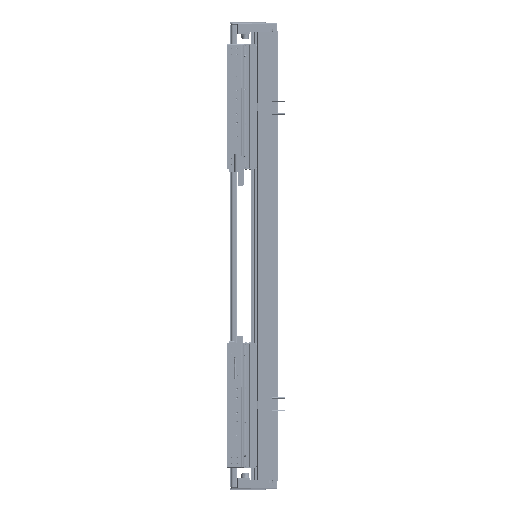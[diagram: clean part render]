
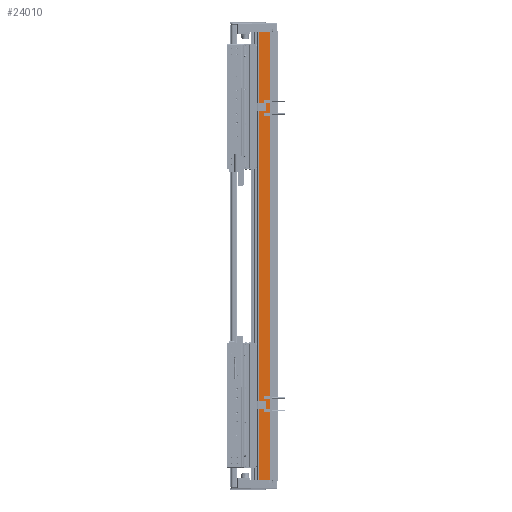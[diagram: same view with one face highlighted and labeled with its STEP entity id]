
A CAD part, left-side view. The second image highlights one B-rep face of the part: STEP entity #24010.
In plain terms, the highlighted planar face has unit normal (-1, 0, 0).
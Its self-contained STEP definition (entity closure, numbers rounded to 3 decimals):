
#756 = VECTOR ( 'NONE', #13966, 1000. ) ;
#13966 = DIRECTION ( 'NONE',  ( 0., -1., 0. ) ) ;
#15815 = VERTEX_POINT ( 'NONE', #37993 ) ;
#18685 = AXIS2_PLACEMENT_3D ( 'NONE', #84362, #130718, #129959 ) ;
#19985 = EDGE_LOOP ( 'NONE', ( #20797, #130846, #96854, #27353 ) ) ;
#20797 = ORIENTED_EDGE ( 'NONE', *, *, #71017, .T. ) ;
#24010 = ADVANCED_FACE ( 'NONE', ( #82876 ), #128460, .F. ) ;
#27353 = ORIENTED_EDGE ( 'NONE', *, *, #51926, .T. ) ;
#32450 = CARTESIAN_POINT ( 'NONE',  ( -97.5, 14.45, 450. ) ) ;
#33090 = VECTOR ( 'NONE', #121912, 1000. ) ;
#37993 = CARTESIAN_POINT ( 'NONE',  ( -97.5, 36.95, -450. ) ) ;
#41419 = CARTESIAN_POINT ( 'NONE',  ( -97.5, 14.45, 450. ) ) ;
#48924 = VERTEX_POINT ( 'NONE', #56803 ) ;
#50434 = VECTOR ( 'NONE', #70902, 1000. ) ;
#51656 = CARTESIAN_POINT ( 'NONE',  ( -97.5, 36.95, -450. ) ) ;
#51926 = EDGE_CURVE ( 'NONE', #117213, #15815, #127867, .T. ) ;
#53874 = DIRECTION ( 'NONE',  ( 0., -1., 0. ) ) ;
#56803 = CARTESIAN_POINT ( 'NONE',  ( -97.5, 14.45, -450. ) ) ;
#58868 = VERTEX_POINT ( 'NONE', #32450 ) ;
#62308 = CARTESIAN_POINT ( 'NONE',  ( -97.5, 36.95, 450. ) ) ;
#63779 = EDGE_CURVE ( 'NONE', #58868, #48924, #99102, .T. ) ;
#70902 = DIRECTION ( 'NONE',  ( 0., 0., -1. ) ) ;
#71017 = EDGE_CURVE ( 'NONE', #15815, #48924, #111552, .T. ) ;
#82876 = FACE_OUTER_BOUND ( 'NONE', #19985, .T. ) ;
#83776 = CARTESIAN_POINT ( 'NONE',  ( -97.5, 36.95, 450. ) ) ;
#84362 = CARTESIAN_POINT ( 'NONE',  ( -97.5, 36.95, 450. ) ) ;
#96854 = ORIENTED_EDGE ( 'NONE', *, *, #119278, .F. ) ;
#98201 = LINE ( 'NONE', #107369, #756 ) ;
#99102 = LINE ( 'NONE', #41419, #33090 ) ;
#99762 = VECTOR ( 'NONE', #53874, 1000. ) ;
#107369 = CARTESIAN_POINT ( 'NONE',  ( -97.5, 36.95, 450. ) ) ;
#111552 = LINE ( 'NONE', #51656, #99762 ) ;
#117213 = VERTEX_POINT ( 'NONE', #62308 ) ;
#119278 = EDGE_CURVE ( 'NONE', #117213, #58868, #98201, .T. ) ;
#121912 = DIRECTION ( 'NONE',  ( 0., 0., -1. ) ) ;
#127867 = LINE ( 'NONE', #83776, #50434 ) ;
#128460 = PLANE ( 'NONE',  #18685 ) ;
#129959 = DIRECTION ( 'NONE',  ( 0., 1., 0. ) ) ;
#130718 = DIRECTION ( 'NONE',  ( 1., 0., 0. ) ) ;
#130846 = ORIENTED_EDGE ( 'NONE', *, *, #63779, .F. ) ;
